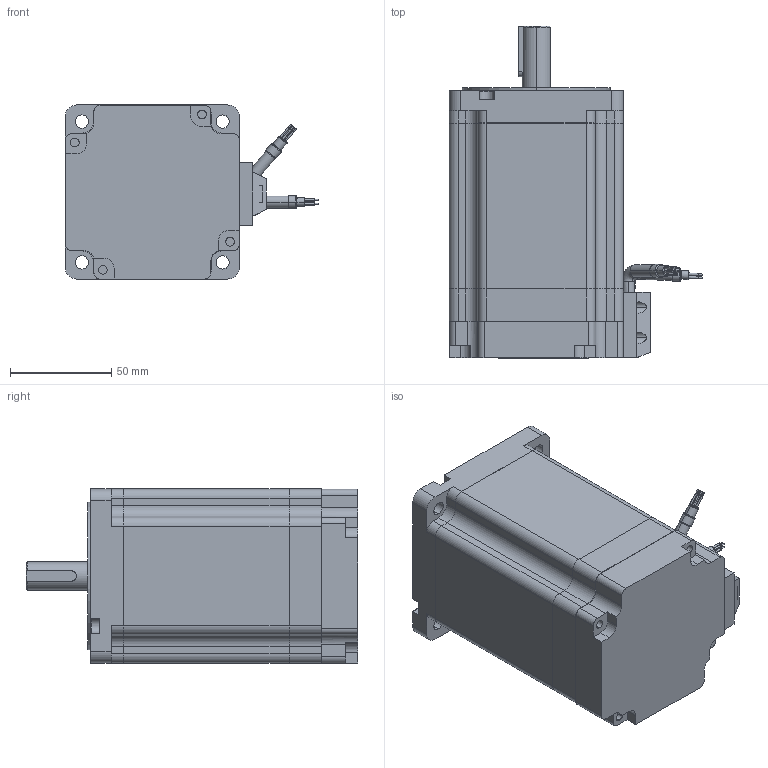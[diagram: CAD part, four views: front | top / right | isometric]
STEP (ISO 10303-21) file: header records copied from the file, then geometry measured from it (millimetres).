
FILE_DESCRIPTION (( 'STEP AP214' ), '1' );
FILE_NAME ('SPS86H8EC.STEP', '2021-07-14T05:42:59', ( 'MM' ), ( 'Microsoft' ), 'SwSTEP 2.0', 'SolidWorks 2020', '' );
FILE_SCHEMA (( 'AUTOMOTIVE_DESIGN' ));
Length unit declared in the file: millimetre
Products named in the file (1): SPS86H8EC
Bounding box: 125.26 x 164 x 86 mm (x, y, z)
Volume: 832246 mm3; surface area: 93329.9 mm2
Topology: 4 solids, 4 shells, 412 faces, 1089 edges, 712 vertices
Faces by surface type: cylinder 196, plane 179, torus 22, cone 8, bspline 7
Entity records: 14434 total; most frequent: CARTESIAN_POINT 2537, DIRECTION 2353, ORIENTED_EDGE 2178, EDGE_CURVE 1089, AXIS2_PLACEMENT_3D 876, VERTEX_POINT 712, VECTOR 601, LINE 601
